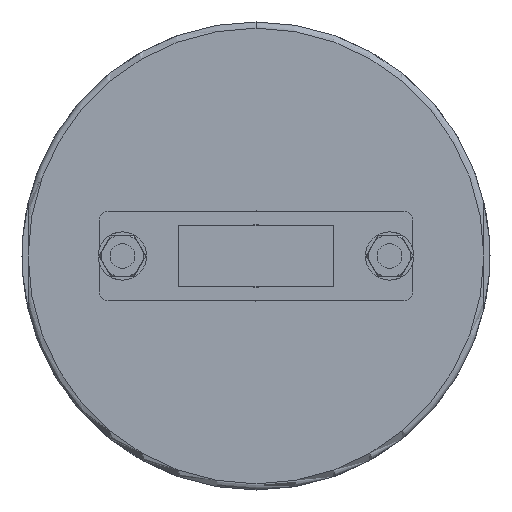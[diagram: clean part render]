
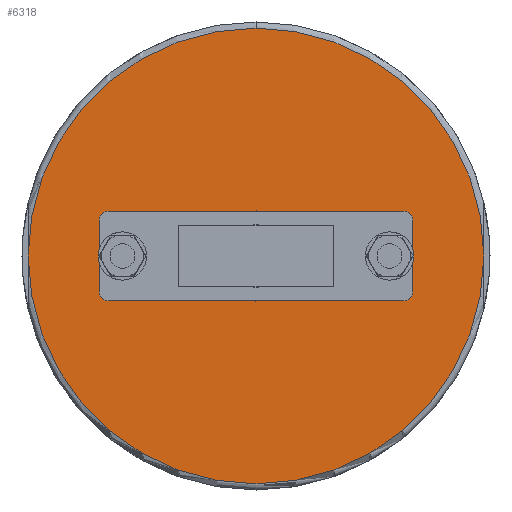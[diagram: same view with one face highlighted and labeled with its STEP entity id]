
A CAD part, front view. The second image highlights one B-rep face of the part: STEP entity #6318.
In plain terms, the highlighted planar face has unit normal (0, -1, 0).
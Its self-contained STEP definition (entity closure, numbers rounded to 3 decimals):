
#665 = CARTESIAN_POINT ( 'NONE',  ( -43.1, 104.5, 6. ) ) ;
#702 = DIRECTION ( 'NONE',  ( 0., 0., 1. ) ) ;
#820 = CIRCLE ( 'NONE', #2361, 73.5 ) ;
#905 = DIRECTION ( 'NONE',  ( 0., 0., 1. ) ) ;
#927 = DIRECTION ( 'NONE',  ( 0., 1., 0. ) ) ;
#933 = ORIENTED_EDGE ( 'NONE', *, *, #3141, .T. ) ;
#944 = EDGE_CURVE ( 'NONE', #5239, #5851, #6437, .T. ) ;
#1195 = CARTESIAN_POINT ( 'NONE',  ( 43.1, 104.5, -6. ) ) ;
#1251 = ORIENTED_EDGE ( 'NONE', *, *, #944, .T. ) ;
#1304 = VERTEX_POINT ( 'NONE', #4335 ) ;
#1497 = CARTESIAN_POINT ( 'NONE',  ( 0., 104.5, 0. ) ) ;
#1704 = DIRECTION ( 'NONE',  ( 0., 0., 1. ) ) ;
#1821 = CARTESIAN_POINT ( 'NONE',  ( 0., 104.5, 0. ) ) ;
#1834 = ORIENTED_EDGE ( 'NONE', *, *, #4342, .T. ) ;
#1894 = DIRECTION ( 'NONE',  ( 0., -1., 0. ) ) ;
#1941 = CARTESIAN_POINT ( 'NONE',  ( 43.1, 104.5, 6. ) ) ;
#2045 = EDGE_CURVE ( 'NONE', #1304, #2550, #7817, .T. ) ;
#2066 = FACE_BOUND ( 'NONE', #3446, .T. ) ;
#2104 = VERTEX_POINT ( 'NONE', #7655 ) ;
#2355 = EDGE_LOOP ( 'NONE', ( #1834, #1251 ) ) ;
#2361 = AXIS2_PLACEMENT_3D ( 'NONE', #2966, #5962, #5361 ) ;
#2384 = DIRECTION ( 'NONE',  ( 0., 0., 1. ) ) ;
#2550 = VERTEX_POINT ( 'NONE', #5319 ) ;
#2625 = CARTESIAN_POINT ( 'NONE',  ( -43.1, 104.5, -6. ) ) ;
#2696 = DIRECTION ( 'NONE',  ( 0., 1., 0. ) ) ;
#2778 = FACE_OUTER_BOUND ( 'NONE', #5078, .T. ) ;
#2811 = AXIS2_PLACEMENT_3D ( 'NONE', #1821, #4142, #2384 ) ;
#2869 = CARTESIAN_POINT ( 'NONE',  ( 0., 104.5, 9. ) ) ;
#2966 = CARTESIAN_POINT ( 'NONE',  ( 0., 104.5, 0. ) ) ;
#3051 = AXIS2_PLACEMENT_3D ( 'NONE', #7110, #4648, #1704 ) ;
#3056 = CIRCLE ( 'NONE', #7206, 6. ) ;
#3141 = EDGE_CURVE ( 'NONE', #4106, #7505, #3056, .T. ) ;
#3294 = CARTESIAN_POINT ( 'NONE',  ( 0., 104.5, 0. ) ) ;
#3350 = CIRCLE ( 'NONE', #7629, 6. ) ;
#3400 = CARTESIAN_POINT ( 'NONE',  ( 0., 104.5, 0. ) ) ;
#3446 = EDGE_LOOP ( 'NONE', ( #933, #5885 ) ) ;
#3500 = ORIENTED_EDGE ( 'NONE', *, *, #2045, .T. ) ;
#3514 = DIRECTION ( 'NONE',  ( 0., 0., 1. ) ) ;
#3524 = ORIENTED_EDGE ( 'NONE', *, *, #5197, .F. ) ;
#3736 = AXIS2_PLACEMENT_3D ( 'NONE', #7734, #6001, #3514 ) ;
#4047 = EDGE_CURVE ( 'NONE', #7505, #4106, #7752, .T. ) ;
#4106 = VERTEX_POINT ( 'NONE', #1195 ) ;
#4142 = DIRECTION ( 'NONE',  ( 0., -1., 0. ) ) ;
#4180 = CARTESIAN_POINT ( 'NONE',  ( 0., 104.5, -9. ) ) ;
#4220 = ORIENTED_EDGE ( 'NONE', *, *, #7237, .T. ) ;
#4321 = CARTESIAN_POINT ( 'NONE',  ( 43.1, 104.5, 0. ) ) ;
#4335 = CARTESIAN_POINT ( 'NONE',  ( 0., 104.5, 73.5 ) ) ;
#4342 = EDGE_CURVE ( 'NONE', #5851, #5239, #3350, .T. ) ;
#4438 = CIRCLE ( 'NONE', #5320, 9. ) ;
#4648 = DIRECTION ( 'NONE',  ( 0., 1., 0. ) ) ;
#4686 = CIRCLE ( 'NONE', #2811, 9. ) ;
#4808 = DIRECTION ( 'NONE',  ( 0., 0., 1. ) ) ;
#5078 = EDGE_LOOP ( 'NONE', ( #7806, #4220, #3500 ) ) ;
#5147 = DIRECTION ( 'NONE',  ( 0., 0., 1. ) ) ;
#5197 = EDGE_CURVE ( 'NONE', #5930, #6661, #4438, .T. ) ;
#5239 = VERTEX_POINT ( 'NONE', #665 ) ;
#5241 = EDGE_CURVE ( 'NONE', #6661, #5930, #4686, .T. ) ;
#5319 = CARTESIAN_POINT ( 'NONE',  ( -73.5, 104.5, 0. ) ) ;
#5320 = AXIS2_PLACEMENT_3D ( 'NONE', #6544, #1894, #4808 ) ;
#5361 = DIRECTION ( 'NONE',  ( 0., 0., 1. ) ) ;
#5412 = AXIS2_PLACEMENT_3D ( 'NONE', #1497, #6315, #905 ) ;
#5540 = DIRECTION ( 'NONE',  ( 0., 1., 0. ) ) ;
#5851 = VERTEX_POINT ( 'NONE', #2625 ) ;
#5885 = ORIENTED_EDGE ( 'NONE', *, *, #4047, .T. ) ;
#5930 = VERTEX_POINT ( 'NONE', #2869 ) ;
#5962 = DIRECTION ( 'NONE',  ( 0., -1., 0. ) ) ;
#6001 = DIRECTION ( 'NONE',  ( 0., 1., 0. ) ) ;
#6216 = DIRECTION ( 'NONE',  ( 0., 0., 1. ) ) ;
#6293 = CIRCLE ( 'NONE', #6565, 73.5 ) ;
#6315 = DIRECTION ( 'NONE',  ( 0., -1., 0. ) ) ;
#6318 = ADVANCED_FACE ( 'NONE', ( #2778, #6322, #6446, #2066 ), #6878, .F. ) ;
#6322 = FACE_BOUND ( 'NONE', #6989, .T. ) ;
#6337 = CARTESIAN_POINT ( 'NONE',  ( -43.1, 104.5, 0. ) ) ;
#6437 = CIRCLE ( 'NONE', #3051, 6. ) ;
#6446 = FACE_BOUND ( 'NONE', #2355, .T. ) ;
#6544 = CARTESIAN_POINT ( 'NONE',  ( 0., 104.5, 0. ) ) ;
#6565 = AXIS2_PLACEMENT_3D ( 'NONE', #3400, #6907, #7032 ) ;
#6661 = VERTEX_POINT ( 'NONE', #4180 ) ;
#6878 = PLANE ( 'NONE',  #7465 ) ;
#6907 = DIRECTION ( 'NONE',  ( 0., -1., 0. ) ) ;
#6989 = EDGE_LOOP ( 'NONE', ( #3524, #7533 ) ) ;
#7032 = DIRECTION ( 'NONE',  ( 0., 0., 1. ) ) ;
#7110 = CARTESIAN_POINT ( 'NONE',  ( -43.1, 104.5, 0. ) ) ;
#7206 = AXIS2_PLACEMENT_3D ( 'NONE', #4321, #5540, #6216 ) ;
#7237 = EDGE_CURVE ( 'NONE', #2104, #1304, #6293, .T. ) ;
#7465 = AXIS2_PLACEMENT_3D ( 'NONE', #3294, #2696, #702 ) ;
#7505 = VERTEX_POINT ( 'NONE', #1941 ) ;
#7533 = ORIENTED_EDGE ( 'NONE', *, *, #5241, .F. ) ;
#7629 = AXIS2_PLACEMENT_3D ( 'NONE', #6337, #927, #5147 ) ;
#7655 = CARTESIAN_POINT ( 'NONE',  ( 73.5, 104.5, 0. ) ) ;
#7734 = CARTESIAN_POINT ( 'NONE',  ( 43.1, 104.5, 0. ) ) ;
#7752 = CIRCLE ( 'NONE', #3736, 6. ) ;
#7806 = ORIENTED_EDGE ( 'NONE', *, *, #7809, .T. ) ;
#7809 = EDGE_CURVE ( 'NONE', #2550, #2104, #820, .T. ) ;
#7817 = CIRCLE ( 'NONE', #5412, 73.5 ) ;
